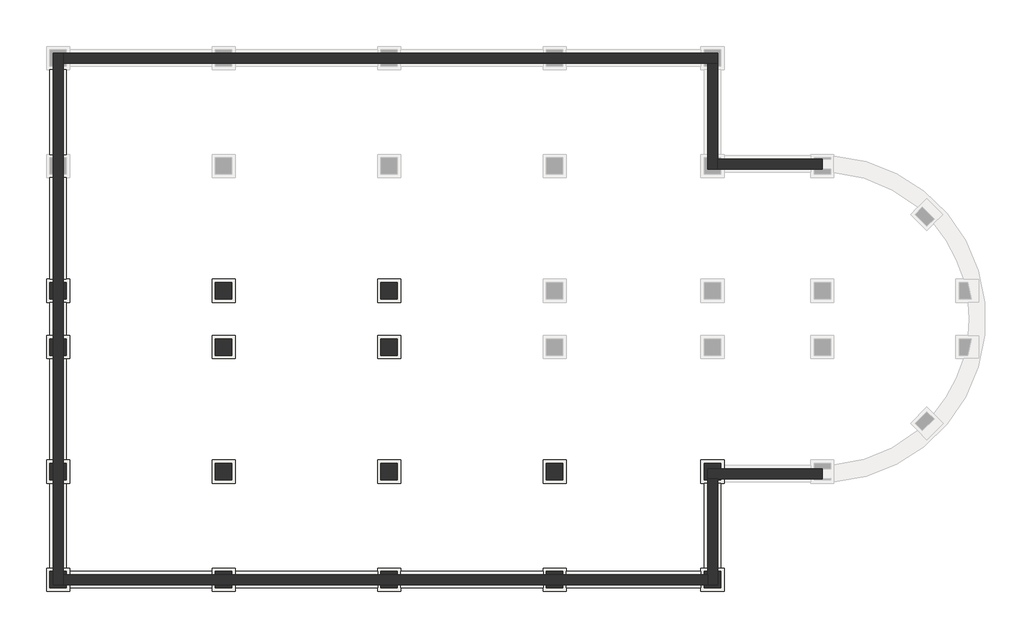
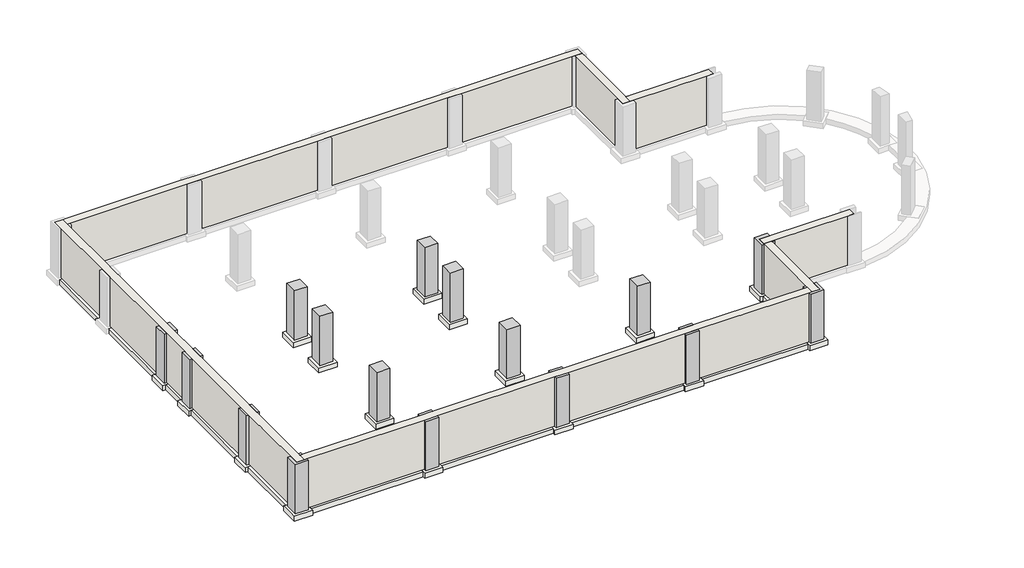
# One storey, part 1 of 2: 16 columns, 16 slabs, 7 walls, 3 footings.
"""IFC4 building model written with IfcOpenShell, lengths in millimetres."""

import ifcopenshell
import ifcopenshell.guid

model = None  # the IFC model being written
_history = None  # IfcOwnerHistory: only IFC2X3 demands one
_inside = {}  # id of a spatial element -> (the spatial element, [elements in it])
_under = {}  # id of a project, library or spatial element -> (it, [spatial elements below it])
_declared = {}  # id of a project -> (the project, [libraries it declares])
_typed = {}  # id of a type object -> (the type object, [elements of that type])
_made_of = {}  # id of a material, layer set ... -> (it, [elements and type objects made of it])


def new_model(schema):
    """Start an empty IFC model of exactly this schema.

    Asked for "IFC4X3", IfcOpenShell would pick the latest addendum, in which some entities
    have other attributes; the version numbers below select the first issue.
    IFC2X3 requires an IfcOwnerHistory on every rooted entity: one is made here for all.
    """
    global model, _history
    if schema == "IFC4X3":
        model = ifcopenshell.file(schema_version=(4, 3, 0, 0))
    else:
        model = ifcopenshell.file(schema=schema)
    _inside.clear()
    _under.clear()
    _declared.clear()
    _typed.clear()
    _made_of.clear()
    _history = None
    if model.schema == "IFC2X3":
        org = make("IfcOrganization", Name="unknown")
        user = make(
            "IfcPersonAndOrganization",
            ThePerson=make("IfcPerson", FamilyName="unknown"),
            TheOrganization=org,
        )
        app = make(
            "IfcApplication",
            ApplicationDeveloper=org,
            Version="unknown",
            ApplicationFullName="unknown",
            ApplicationIdentifier="unknown",
        )
        _history = make(
            "IfcOwnerHistory",
            OwningUser=user,
            OwningApplication=app,
            ChangeAction="ADDED",
            CreationDate=0,
        )
    return model


def make(cls, **values):
    """One entity of the class cls with the attributes given. An attribute that is None is left unset."""
    return model.create_entity(
        cls, **{name: value for name, value in values.items() if value is not None}
    )


def rooted(cls, **values):
    """An entity with a GlobalId (a new one), such as an element, a storey or a relation."""
    return make(cls, GlobalId=ifcopenshell.guid.new(), OwnerHistory=_history, **values)


def si_unit(unit_type, name, prefix=None):
    """IfcSIUnit, for example si_unit("LENGTHUNIT", "METRE", prefix="MILLI")."""
    return make("IfcSIUnit", UnitType=unit_type, Prefix=prefix, Name=name)


def assignment(units):
    """IfcUnitAssignment: the units of a project."""
    return None if units is None else make("IfcUnitAssignment", Units=units)


def point(xyz):
    """IfcCartesianPoint."""
    return None if xyz is None else make("IfcCartesianPoint", Coordinates=xyz)


def direction(xyz):
    """IfcDirection."""
    return None if xyz is None else make("IfcDirection", DirectionRatios=xyz)


def frame(location, z_axis=None, x_axis=None):
    """IfcAxis2Placement3D, a coordinate frame: its origin and axes. An axis left out is left unset."""
    return make(
        "IfcAxis2Placement3D",
        Location=point(location),
        Axis=direction(z_axis),
        RefDirection=direction(x_axis),
    )


def origin():
    """The frame at (0, 0, 0) with its axes left unset."""
    return frame((0.0, 0.0, 0.0))


def place(relative_to, where):
    """IfcLocalPlacement: puts the frame where relative to a parent placement (None: the world)."""
    return make(
        "IfcLocalPlacement", PlacementRelTo=relative_to, RelativePlacement=where
    )


def context(
    kind, dimensions, precision=None, world=None, true_north=None, identifier=None
):
    """IfcGeometricRepresentationContext, for example the 3D "Model" context."""
    return make(
        "IfcGeometricRepresentationContext",
        ContextIdentifier=identifier,
        ContextType=kind,
        CoordinateSpaceDimension=dimensions,
        Precision=precision,
        WorldCoordinateSystem=world,
        TrueNorth=true_north,
    )


def project(units=None, contexts=None):
    """IfcProject with its units and contexts."""
    return rooted(
        "IfcProject",
        Name="project",
        RepresentationContexts=contexts,
        UnitsInContext=assignment(units),
    )


def spatial(cls, under=None, at=None, **own):
    """A site, building, storey or space (cls), placed at a placement, below another one or the project."""
    s = rooted(cls, ObjectPlacement=at, **own)
    if under is not None:
        _under.setdefault(under.id(), (under, []))[1].append(s)
    return s


def polyline(points):
    """IfcPolyline through the points."""
    return make("IfcPolyline", Points=[point(p) for p in points])


def outline(outer, holes=None, kind="AREA"):
    """IfcArbitraryClosedProfileDef: a profile drawn as a closed curve; with holes, ...WithVoids."""
    if holes is None:
        return make("IfcArbitraryClosedProfileDef", ProfileType=kind, OuterCurve=outer)
    return make(
        "IfcArbitraryProfileDefWithVoids",
        ProfileType=kind,
        OuterCurve=outer,
        InnerCurves=holes,
    )


def extrude(swept, where, along, depth):
    """IfcExtrudedAreaSolid: the profile swept, set in the frame where, extruded along a direction by depth."""
    return make(
        "IfcExtrudedAreaSolid",
        SweptArea=swept,
        Position=where,
        ExtrudedDirection=direction(along),
        Depth=depth,
    )


def faces_of(points, faces, orient=None, outer=None):
    """IfcFace entities. A face is a list of loops; a loop is a list of indices into points, from 0.

    orient and outer hold one flag for each loop. By default every Orientation is true, the
    first loop of a face is its IfcFaceOuterBound and the others are IfcFaceBound.
    """
    made = []
    for i, loops in enumerate(faces):
        bounds = []
        for j, loop in enumerate(loops):
            is_outer = j == 0 if outer is None else outer[i][j]
            bounds.append(
                make(
                    "IfcFaceOuterBound" if is_outer else "IfcFaceBound",
                    Bound=make("IfcPolyLoop", Polygon=[points[k] for k in loop]),
                    Orientation=True if orient is None else orient[i][j],
                )
            )
        made.append(make("IfcFace", Bounds=bounds))
    return made


def faceted_brep(points, faces, orient=None, outer=None, voids=None):
    """IfcFacetedBrep: a solid bounded by flat faces; with voids (closed shells), ...WithVoids."""
    shared = [point(p) for p in points]
    hull = make("IfcClosedShell", CfsFaces=faces_of(shared, faces, orient, outer))
    if voids is None:
        return make("IfcFacetedBrep", Outer=hull)
    return make(
        "IfcFacetedBrepWithVoids",
        Outer=hull,
        Voids=[
            make(cls, CfsFaces=faces_of(shared, fs, o, b)) for cls, fs, o, b in voids
        ],
    )


def shape(context_of_items, identifier, shape_type, items):
    """IfcShapeRepresentation: the items that make up one representation, for example the "Body"."""
    return make(
        "IfcShapeRepresentation",
        ContextOfItems=context_of_items,
        RepresentationIdentifier=identifier,
        RepresentationType=shape_type,
        Items=items,
    )


def source(mapping_origin, context_of_items, identifier, shape_type, items):
    """IfcRepresentationMap: a shape defined once, which mapped items show again and again."""
    return make(
        "IfcRepresentationMap",
        MappingOrigin=mapping_origin,
        MappedRepresentation=shape(context_of_items, identifier, shape_type, items),
    )


def transform(
    local_origin,
    x_axis=None,
    y_axis=None,
    z_axis=None,
    scale=None,
    scale2=None,
    scale3=None,
    uniform=True,
):
    """IfcCartesianTransformationOperator3D, or its non-uniform kind. x_axis, y_axis, z_axis: its Axis1, 2, 3."""
    if uniform:
        return make(
            "IfcCartesianTransformationOperator3D",
            Axis1=direction(x_axis),
            Axis2=direction(y_axis),
            LocalOrigin=point(local_origin),
            Scale=scale,
            Axis3=direction(z_axis),
        )
    return make(
        "IfcCartesianTransformationOperator3DnonUniform",
        Axis1=direction(x_axis),
        Axis2=direction(y_axis),
        LocalOrigin=point(local_origin),
        Scale=scale,
        Axis3=direction(z_axis),
        Scale2=scale2,
        Scale3=scale3,
    )


def mapped(mapping_source, mapping_target):
    """IfcMappedItem: shows the shape of a source again, moved by a transform."""
    return make(
        "IfcMappedItem", MappingSource=mapping_source, MappingTarget=mapping_target
    )


def made_of(thing, what):
    """Note that an element or type object is made of a material, layer set ...; save() writes the relation."""
    if what is not None:
        _made_of.setdefault(what.id(), (what, []))[1].append(thing)
    return thing


def element(
    cls,
    number,
    at=None,
    inside=None,
    cuts=None,
    type_object=None,
    material=None,
    context=None,
    identifier="Body",
    shape_type=None,
    held_by="IfcProductDefinitionShape",
    body=None,
    shapes=None,
    **own,
):
    """One element of the class cls, such as IfcWall. Its Tag is "e" and its number.

    at: its placement. inside: the storey or other place that contains it. cuts: it is an
    opening in that element (IfcRelVoidsElement). A single representation is given by context,
    identifier, shape_type and body (its items); several are given by shapes. held_by: the class
    of the entity that holds the representations. save() writes the other relations.
    """
    e = rooted(cls, Tag="e%d" % number, ObjectPlacement=at, **own)
    if body is not None:
        shapes = [shape(context, identifier, shape_type, body)]
    if shapes is not None:
        e.Representation = make(held_by, Representations=shapes)
    if inside is not None:
        _inside.setdefault(inside.id(), (inside, []))[1].append(e)
    if cuts is not None:
        rooted(
            "IfcRelVoidsElement", RelatingBuildingElement=cuts, RelatedOpeningElement=e
        )
    if type_object is not None:
        _typed.setdefault(type_object.id(), (type_object, []))[1].append(e)
    return made_of(e, material)


def aggregate(whole, parts):
    """IfcRelAggregates: a whole, such as a stair, and the parts it consists of."""
    return rooted("IfcRelAggregates", RelatingObject=whole, RelatedObjects=parts)


def save(model, path):
    """Write the relations noted so far, then the file.

    IfcRelAggregates (storeys below a building ...), IfcRelContainedInSpatialStructure (elements
    in a storey), IfcRelDefinesByType, IfcRelAssociatesMaterial and IfcRelDeclares: one each for
    every whole, place, type object, material and project.
    """
    for whole, parts in _under.values():
        aggregate(whole, parts)
    for where, things in _inside.values():
        rooted(
            "IfcRelContainedInSpatialStructure",
            RelatedElements=things,
            RelatingStructure=where,
        )
    for kind, things in _typed.values():
        rooted("IfcRelDefinesByType", RelatedObjects=things, RelatingType=kind)
    for what, things in _made_of.values():
        rooted("IfcRelAssociatesMaterial", RelatedObjects=things, RelatingMaterial=what)
    for by, libraries in _declared.values():
        rooted("IfcRelDeclares", RelatingContext=by, RelatedDefinitions=libraries)
    model.write(path)


def column_99cc3399(model_context):
    return source(origin(), model_context, "Body", "SweptSolid", [
        extrude(outline(polyline([(381.0, 381.0), (381.0, -381.0), (-381.0, -381.0), (-381.0, 381.0), (381.0, 381.0)])), frame((0.0, 0.0, -3048.0), z_axis=(0.0, 0.0, 1.0), x_axis=(1.0, 0.0, 0.0)), (0.0, 0.0, 1.0), 3048.0),
    ])


def slab_3b9d1f00(model_context):
    return source(origin(), model_context, "Body", "SweptSolid", [
        extrude(outline(polyline([(533.4, 533.4), (533.4, -533.4), (-533.4, -533.4), (-533.4, 533.4), (533.4, 533.4)])), frame((0.0, 0.0, -304.8), z_axis=(0.0, 0.0, 1.0), x_axis=(1.0, 0.0, 0.0)), (0.0, 0.0, 1.0), 304.8),
    ])


model = new_model("IFC4")

# Units and contexts
model_context = context("Model", 3, world=origin())
ifc_project = project(units=[si_unit("LENGTHUNIT", "METRE", prefix="MILLI")], contexts=[model_context])

# Site, building, storey
site = spatial("IfcSite", under=ifc_project)
building = spatial("IfcBuilding", under=site)
storey = spatial("IfcBuildingStorey", under=building, Name="T.O.FOOTING", Elevation=-3048.0)

# Columns
placement = place(None, origin())
element("IfcColumn", 1, ObjectType="Concrete-Rectangular-Column : 2'-6\" x 2'-6\"", at=placement, inside=storey, context=model_context, shape_type="SweptSolid", body=[
    extrude(outline(polyline([(-17623.6535279, -1589.8226681), (-17623.6535279, -827.8226681), (-17471.2535279, -827.8226681), (-17471.2535279, -1589.8226681), (-17623.6535279, -1589.8226681)])), frame((0.0, 0.0, -3048.0), z_axis=(0.0, 0.0, 1.0), x_axis=(1.0, 0.0, 0.0)), (0.0, 0.0, 1.0), 3048.0),
    extrude(outline(polyline([(-16861.6535279, -827.8226681), (-16861.6535279, -1589.8226681), (-17014.0535279, -1589.8226681), (-17014.0535279, -827.8226681), (-16861.6535279, -827.8226681)])), frame((0.0, 0.0, -3048.0), z_axis=(0.0, 0.0, 1.0), x_axis=(1.0, 0.0, 0.0)), (0.0, 0.0, 1.0), 3048.0),
])
element("IfcColumn", 2, ObjectType="Concrete-Rectangular-Column : 2'-6\" x 2'-6\"", at=placement, inside=storey, context=model_context, shape_type="SweptSolid", body=[
    extrude(outline(polyline([(-17623.6535279, -4183.7976681), (-17623.6535279, -3421.7976681), (-17471.2535279, -3421.7976681), (-17471.2535279, -4183.7976681), (-17623.6535279, -4183.7976681)])), frame((0.0, 0.0, -3048.0), z_axis=(0.0, 0.0, 1.0), x_axis=(1.0, 0.0, 0.0)), (0.0, 0.0, 1.0), 3048.0),
    extrude(outline(polyline([(-16861.6535279, -3421.7976681), (-16861.6535279, -4183.7976681), (-17014.0535279, -4183.7976681), (-17014.0535279, -3421.7976681), (-16861.6535279, -3421.7976681)])), frame((0.0, 0.0, -3048.0), z_axis=(0.0, 0.0, 1.0), x_axis=(1.0, 0.0, 0.0)), (0.0, 0.0, 1.0), 3048.0),
])
element("IfcColumn", 3, ObjectType="Concrete-Rectangular-Column : 2'-6\" x 2'-6\"", at=placement, inside=storey, context=model_context, shape_type="SweptSolid", body=[
    extrude(outline(polyline([(-17623.6535279, -9927.3726681), (-17623.6535279, -9165.3726681), (-17471.2535279, -9165.3726681), (-17471.2535279, -9927.3726681), (-17623.6535279, -9927.3726681)])), frame((0.0, 0.0, -3048.0), z_axis=(0.0, 0.0, 1.0), x_axis=(1.0, 0.0, 0.0)), (0.0, 0.0, 1.0), 3048.0),
    extrude(outline(polyline([(-16861.6535279, -9165.3726681), (-16861.6535279, -9927.3726681), (-17014.0535279, -9927.3726681), (-17014.0535279, -9165.3726681), (-16861.6535279, -9165.3726681)])), frame((0.0, 0.0, -3048.0), z_axis=(0.0, 0.0, 1.0), x_axis=(1.0, 0.0, 0.0)), (0.0, 0.0, 1.0), 3048.0),
])
element("IfcColumn", 4, ObjectType="Concrete-Rectangular-Column : 2'-6\" x 2'-6\"", at=placement, inside=storey, context=model_context, shape_type="Brep", body=[
    faceted_brep([(-17014.0535279, -14140.5976681, -3048.0), (-16861.6535279, -14140.5976681, -3048.0), (-16861.6535279, -14292.9976681, -3048.0), (-17014.0535279, -14292.9976681, -3048.0), (-16861.6535279, -14140.5976681, 0.0), (-17014.0535279, -14140.5976681, 0.0), (-17014.0535279, -14292.9976681, 0.0), (-16861.6535279, -14292.9976681, 0.0)], [[[0, 1, 2, 3]], [[4, 5, 6, 7]], [[5, 0, 3, 6]], [[4, 1, 0, 5]], [[3, 2, 7, 6]], [[1, 4, 7, 2]]]),
    faceted_brep([(-16861.6535279, -14902.5976681, 0.0), (-16861.6535279, -14902.5976681, -3048.0), (-16861.6535279, -14750.1976681, -3048.0), (-16861.6535279, -14750.1976681, 0.0), (-17623.6535279, -14902.5976681, -3048.0), (-17623.6535279, -14902.5976681, 0.0), (-17623.6535279, -14140.5976681, -3048.0), (-17623.6535279, -14140.5976681, 0.0), (-17471.2535279, -14140.5976681, 0.0), (-17471.2535279, -14140.5976681, -3048.0), (-17471.2535279, -14750.1976681, 0.0), (-17471.2535279, -14750.1976681, -3048.0), (-17014.0535279, -14750.1976681, 0.0), (-17014.0535279, -14750.1976681, -3048.0)], [[[0, 1, 2, 3]], [[4, 1, 0, 5]], [[6, 4, 5, 7]], [[6, 7, 8, 9]], [[10, 11, 9, 8]], [[11, 10, 12, 3, 2, 13]], [[1, 4, 6, 9, 11, 13, 2]], [[5, 0, 3, 12, 10, 8, 7]]]),
])
element("IfcColumn", 5, ObjectType="Concrete-Rectangular-Column : 2'-6\" x 2'-6\"", at=placement, inside=storey, context=model_context, shape_type="SweptSolid", body=[
    extrude(outline(polyline([(-10003.6535279, -14140.5976681), (-9241.6535279, -14140.5976681), (-9241.6535279, -14292.9976681), (-10003.6535279, -14292.9976681), (-10003.6535279, -14140.5976681)])), frame((0.0, 0.0, -3048.0), z_axis=(0.0, 0.0, 1.0), x_axis=(1.0, 0.0, 0.0)), (0.0, 0.0, 1.0), 3048.0),
    extrude(outline(polyline([(-9241.6535279, -14902.5976681), (-10003.6535279, -14902.5976681), (-10003.6535279, -14750.1976681), (-9241.6535279, -14750.1976681), (-9241.6535279, -14902.5976681)])), frame((0.0, 0.0, -3048.0), z_axis=(0.0, 0.0, 1.0), x_axis=(1.0, 0.0, 0.0)), (0.0, 0.0, 1.0), 3048.0),
])
element("IfcColumn", 6, ObjectType="Concrete-Rectangular-Column : 2'-6\" x 2'-6\"", at=placement, inside=storey, context=model_context, shape_type="SweptSolid", body=[
    extrude(outline(polyline([(-2383.6535279, -14140.5976681), (-1621.6535279, -14140.5976681), (-1621.6535279, -14292.9976681), (-2383.6535279, -14292.9976681), (-2383.6535279, -14140.5976681)])), frame((0.0, 0.0, -3048.0), z_axis=(0.0, 0.0, 1.0), x_axis=(1.0, 0.0, 0.0)), (0.0, 0.0, 1.0), 3048.0),
    extrude(outline(polyline([(-1621.6535279, -14902.5976681), (-2383.6535279, -14902.5976681), (-2383.6535279, -14750.1976681), (-1621.6535279, -14750.1976681), (-1621.6535279, -14902.5976681)])), frame((0.0, 0.0, -3048.0), z_axis=(0.0, 0.0, 1.0), x_axis=(1.0, 0.0, 0.0)), (0.0, 0.0, 1.0), 3048.0),
])
element("IfcColumn", 7, ObjectType="Concrete-Rectangular-Column : 2'-6\" x 2'-6\"", at=placement, inside=storey, context=model_context, shape_type="SweptSolid", body=[
    extrude(outline(polyline([(5236.3464721, -14140.5976681), (5998.3464721, -14140.5976681), (5998.3464721, -14292.9976681), (5236.3464721, -14292.9976681), (5236.3464721, -14140.5976681)])), frame((0.0, 0.0, -3048.0), z_axis=(0.0, 0.0, 1.0), x_axis=(1.0, 0.0, 0.0)), (0.0, 0.0, 1.0), 3048.0),
    extrude(outline(polyline([(5998.3464721, -14902.5976681), (5236.3464721, -14902.5976681), (5236.3464721, -14750.1976681), (5998.3464721, -14750.1976681), (5998.3464721, -14902.5976681)])), frame((0.0, 0.0, -3048.0), z_axis=(0.0, 0.0, 1.0), x_axis=(1.0, 0.0, 0.0)), (0.0, 0.0, 1.0), 3048.0),
])
element("IfcColumn", 8, ObjectType="Concrete-Rectangular-Column : 2'-6\" x 2'-6\"", at=placement, inside=storey, context=model_context, shape_type="Brep", body=[
    faceted_brep([(12503.9214721, -9927.3726681, -3048.0), (12503.9214721, -9165.3726681, -3048.0), (13265.9214721, -9165.3726681, -3048.0), (13265.9214721, -9416.1976681, -3048.0), (12656.3214721, -9416.1976681, -3048.0), (12656.3214721, -9873.3976681, -3048.0), (12656.3214721, -9927.3726681, -3048.0), (12503.9214721, -9927.3726681, 0.0), (12656.3214721, -9927.3726681, 0.0), (12503.9214721, -9165.3726681, 0.0), (13265.9214721, -9165.3726681, 0.0), (12656.3214721, -9416.1976681, 0.0), (13265.9214721, -9416.1976681, 0.0), (12656.3214721, -9873.3976681, 0.0)], [[[0, 1, 2, 3, 4, 5, 6]], [[7, 0, 6, 8]], [[1, 0, 7, 9]], [[2, 1, 9, 10]], [[11, 4, 3, 12]], [[4, 11, 13, 8, 6, 5]], [[2, 10, 12, 3]], [[9, 7, 8, 13, 11, 12, 10]]]),
    faceted_brep([(13265.9214721, -9927.3726681, 0.0), (13265.9214721, -9927.3726681, -3048.0), (13265.9214721, -9873.3976681, -3048.0), (13265.9214721, -9873.3976681, 0.0), (13113.5214721, -9873.3976681, 0.0), (13113.5214721, -9927.3726681, 0.0), (13113.5214721, -9873.3976681, -3048.0), (13113.5214721, -9927.3726681, -3048.0)], [[[0, 1, 2, 3]], [[0, 3, 4, 5]], [[3, 2, 6, 4]], [[6, 7, 5, 4]], [[2, 1, 7, 6]], [[1, 0, 5, 7]]]),
])
element("IfcColumn", 9, ObjectType="Concrete-Rectangular-Column : 2'-6\" x 2'-6\"", at=placement, inside=storey, context=model_context, shape_type="Brep", body=[
    faceted_brep([(12503.9214721, -14140.5976681, -3048.0), (12656.3214721, -14140.5976681, -3048.0), (12656.3214721, -14292.9976681, -3048.0), (12503.9214721, -14292.9976681, -3048.0), (12503.9214721, -14140.5976681, 0.0), (12503.9214721, -14292.9976681, 0.0), (12656.3214721, -14140.5976681, 0.0), (12656.3214721, -14292.9976681, 0.0)], [[[0, 1, 2, 3]], [[4, 0, 3, 5]], [[0, 4, 6, 1]], [[1, 6, 7, 2]], [[3, 2, 7, 5]], [[6, 4, 5, 7]]]),
    faceted_brep([(13265.9214721, -14902.5976681, -3048.0), (13265.9214721, -14140.5976681, -3048.0), (13265.9214721, -14140.5976681, 0.0), (13265.9214721, -14902.5976681, 0.0), (12503.9214721, -14902.5976681, -3048.0), (12503.9214721, -14902.5976681, 0.0), (13113.5214721, -14140.5976681, 0.0), (13113.5214721, -14750.1976681, 0.0), (12656.3214721, -14750.1976681, 0.0), (12503.9214721, -14750.1976681, 0.0), (13113.5214721, -14750.1976681, -3048.0), (13113.5214721, -14140.5976681, -3048.0), (12656.3214721, -14750.1976681, -3048.0), (12503.9214721, -14750.1976681, -3048.0)], [[[0, 1, 2, 3]], [[4, 0, 3, 5]], [[3, 2, 6, 7, 8, 9, 5]], [[10, 7, 6, 11]], [[7, 10, 12, 13, 9, 8]], [[2, 1, 11, 6]], [[1, 0, 4, 13, 12, 10, 11]], [[4, 5, 9, 13]]]),
])
column_shape = column_99cc3399(model_context)
element("IfcColumn", 10, ObjectType="Concrete-Rectangular-Column : 2'-6\" x 2'-6\"", at=placement, inside=storey, context=model_context, shape_type="MappedRepresentation", body=[
    mapped(column_shape, transform((-9622.6535279, -1208.8226681, 0.0), x_axis=(1.0, 0.0, 0.0), y_axis=(0.0, 1.0, 0.0), z_axis=(0.0, 0.0, 1.0))),
])
element("IfcColumn", 11, ObjectType="Concrete-Rectangular-Column : 2'-6\" x 2'-6\"", at=placement, inside=storey, context=model_context, shape_type="MappedRepresentation", body=[
    mapped(column_shape, transform((-9622.6535279, -3802.7976681, 0.0), x_axis=(1.0, 0.0, 0.0), y_axis=(0.0, 1.0, 0.0), z_axis=(0.0, 0.0, 1.0))),
])
element("IfcColumn", 12, ObjectType="Concrete-Rectangular-Column : 2'-6\" x 2'-6\"", at=placement, inside=storey, context=model_context, shape_type="MappedRepresentation", body=[
    mapped(column_shape, transform((-9622.6535279, -9546.3726681, 0.0), x_axis=(1.0, 0.0, 0.0), y_axis=(0.0, 1.0, 0.0), z_axis=(0.0, 0.0, 1.0))),
])
element("IfcColumn", 13, ObjectType="Concrete-Rectangular-Column : 2'-6\" x 2'-6\"", at=placement, inside=storey, context=model_context, shape_type="MappedRepresentation", body=[
    mapped(column_shape, transform((-2002.6535279, -1208.8226681, 0.0), x_axis=(1.0, 0.0, 0.0), y_axis=(0.0, 1.0, 0.0), z_axis=(0.0, 0.0, 1.0))),
])
element("IfcColumn", 14, ObjectType="Concrete-Rectangular-Column : 2'-6\" x 2'-6\"", at=placement, inside=storey, context=model_context, shape_type="MappedRepresentation", body=[
    mapped(column_shape, transform((-2002.6535279, -3802.7976681, 0.0), x_axis=(1.0, 0.0, 0.0), y_axis=(0.0, 1.0, 0.0), z_axis=(0.0, 0.0, 1.0))),
])
element("IfcColumn", 15, ObjectType="Concrete-Rectangular-Column : 2'-6\" x 2'-6\"", at=placement, inside=storey, context=model_context, shape_type="MappedRepresentation", body=[
    mapped(column_shape, transform((-2002.6535279, -9546.3726681, 0.0), x_axis=(1.0, 0.0, 0.0), y_axis=(0.0, 1.0, 0.0), z_axis=(0.0, 0.0, 1.0))),
])
element("IfcColumn", 16, ObjectType="Concrete-Rectangular-Column : 2'-6\" x 2'-6\"", at=placement, inside=storey, context=model_context, shape_type="MappedRepresentation", body=[
    mapped(column_shape, transform((5617.3464721, -9546.3726681, 0.0), x_axis=(1.0, 0.0, 0.0), y_axis=(0.0, 1.0, 0.0), z_axis=(0.0, 0.0, 1.0))),
])

# Footings
element("IfcFooting", 17, ObjectType="Bearing Footing -2'-6\" x 12\"", at=placement, inside=storey, context=model_context, shape_type="SweptSolid", body=[
    extrude(outline(polyline([(-17623.6535279, 8976.5773319), (-16861.6535279, 8976.5773319), (-16861.6535279, 5068.1523319), (-17623.6535279, 5068.1523319), (-17623.6535279, 8976.5773319)])), frame((0.0, 0.0, -3352.8), z_axis=(0.0, 0.0, 1.0), x_axis=(1.0, 0.0, 0.0)), (0.0, 0.0, 1.0), 304.8),
    extrude(outline(polyline([(-17623.6535279, 4001.3523319), (-16861.6535279, 4001.3523319), (-16861.6535279, -675.4226681), (-17623.6535279, -675.4226681), (-17623.6535279, 4001.3523319)])), frame((0.0, 0.0, -3352.8), z_axis=(0.0, 0.0, 1.0), x_axis=(1.0, 0.0, 0.0)), (0.0, 0.0, 1.0), 304.8),
    extrude(outline(polyline([(-17623.6535279, -1742.2226681), (-16861.6535279, -1742.2226681), (-16861.6535279, -3269.3976681), (-17623.6535279, -3269.3976681), (-17623.6535279, -1742.2226681)])), frame((0.0, 0.0, -3352.8), z_axis=(0.0, 0.0, 1.0), x_axis=(1.0, 0.0, 0.0)), (0.0, 0.0, 1.0), 304.8),
    extrude(outline(polyline([(-17623.6535279, -4336.1976681), (-16861.6535279, -4336.1976681), (-16861.6535279, -9012.9726681), (-17623.6535279, -9012.9726681), (-17623.6535279, -4336.1976681)])), frame((0.0, 0.0, -3352.8), z_axis=(0.0, 0.0, 1.0), x_axis=(1.0, 0.0, 0.0)), (0.0, 0.0, 1.0), 304.8),
    extrude(outline(polyline([(-17623.6535279, -10079.7726681), (-16861.6535279, -10079.7726681), (-16861.6535279, -13988.1976681), (-17623.6535279, -13988.1976681), (-17623.6535279, -10079.7726681)])), frame((0.0, 0.0, -3352.8), z_axis=(0.0, 0.0, 1.0), x_axis=(1.0, 0.0, 0.0)), (0.0, 0.0, 1.0), 304.8),
])
element("IfcFooting", 18, ObjectType="Bearing Footing -2'-6\" x 12\"", at=placement, inside=storey, context=model_context, shape_type="SweptSolid", body=[
    extrude(outline(polyline([(12503.9214721, -10079.7726681), (13265.9214721, -10079.7726681), (13265.9214721, -13988.1976681), (12503.9214721, -13988.1976681), (12503.9214721, -10079.7726681)])), frame((0.0, 0.0, -3352.8), z_axis=(0.0, 0.0, 1.0), x_axis=(1.0, 0.0, 0.0)), (0.0, 0.0, 1.0), 304.8),
])
element("IfcFooting", 19, ObjectType="Bearing Footing -2'-6\" x 12\"", at=placement, inside=storey, context=model_context, shape_type="SweptSolid", body=[
    extrude(outline(polyline([(-16709.2535279, -14902.5976681), (-16709.2535279, -14140.5976681), (-10156.0535279, -14140.5976681), (-10156.0535279, -14902.5976681), (-16709.2535279, -14902.5976681)])), frame((0.0, 0.0, -3352.8), z_axis=(0.0, 0.0, 1.0), x_axis=(1.0, 0.0, 0.0)), (0.0, 0.0, 1.0), 304.8),
    extrude(outline(polyline([(-9089.2535279, -14902.5976681), (-9089.2535279, -14140.5976681), (-2536.0535279, -14140.5976681), (-2536.0535279, -14902.5976681), (-9089.2535279, -14902.5976681)])), frame((0.0, 0.0, -3352.8), z_axis=(0.0, 0.0, 1.0), x_axis=(1.0, 0.0, 0.0)), (0.0, 0.0, 1.0), 304.8),
    extrude(outline(polyline([(-1469.2535279, -14902.5976681), (-1469.2535279, -14140.5976681), (5083.9464721, -14140.5976681), (5083.9464721, -14902.5976681), (-1469.2535279, -14902.5976681)])), frame((0.0, 0.0, -3352.8), z_axis=(0.0, 0.0, 1.0), x_axis=(1.0, 0.0, 0.0)), (0.0, 0.0, 1.0), 304.8),
    extrude(outline(polyline([(6150.7464721, -14902.5976681), (6150.7464721, -14140.5976681), (12351.5214721, -14140.5976681), (12351.5214721, -14902.5976681), (6150.7464721, -14902.5976681)])), frame((0.0, 0.0, -3352.8), z_axis=(0.0, 0.0, 1.0), x_axis=(1.0, 0.0, 0.0)), (0.0, 0.0, 1.0), 304.8),
])

# Slabs
element("IfcSlab", 20, ObjectType="Footing-Rectangular : 3'-6\" x 3'-6\" x 12\"", at=placement, inside=storey, context=model_context, shape_type="Brep", body=[
    faceted_brep([(-16709.2535279, -675.4226681, -3048.0), (-16861.6535279, -675.4226681, -3048.0), (-17623.6535279, -675.4226681, -3048.0), (-17776.0535279, -675.4226681, -3048.0), (-17776.0535279, -1742.2226681, -3048.0), (-17623.6535279, -1742.2226681, -3048.0), (-16861.6535279, -1742.2226681, -3048.0), (-16709.2535279, -1742.2226681, -3048.0), (-16709.2535279, -675.4226681, -3352.8), (-16709.2535279, -1742.2226681, -3352.8), (-16861.6535279, -1742.2226681, -3352.8), (-17623.6535279, -1742.2226681, -3352.8), (-17776.0535279, -1742.2226681, -3352.8), (-17776.0535279, -675.4226681, -3352.8), (-17623.6535279, -675.4226681, -3352.8), (-16861.6535279, -675.4226681, -3352.8)], [[[0, 1, 2, 3, 4, 5, 6, 7]], [[8, 9, 10, 11, 12, 13, 14, 15]], [[3, 2, 1, 0, 8, 15, 14, 13]], [[4, 3, 13, 12]], [[7, 6, 5, 4, 12, 11, 10, 9]], [[0, 7, 9, 8]]]),
])
element("IfcSlab", 21, ObjectType="Footing-Rectangular : 3'-6\" x 3'-6\" x 12\"", at=placement, inside=storey, context=model_context, shape_type="Brep", body=[
    faceted_brep([(-16709.2535279, -3269.3976681, -3048.0), (-16861.6535279, -3269.3976681, -3048.0), (-17623.6535279, -3269.3976681, -3048.0), (-17776.0535279, -3269.3976681, -3048.0), (-17776.0535279, -4336.1976681, -3048.0), (-17623.6535279, -4336.1976681, -3048.0), (-16861.6535279, -4336.1976681, -3048.0), (-16709.2535279, -4336.1976681, -3048.0), (-16709.2535279, -3269.3976681, -3352.8), (-16709.2535279, -4336.1976681, -3352.8), (-16861.6535279, -4336.1976681, -3352.8), (-17623.6535279, -4336.1976681, -3352.8), (-17776.0535279, -4336.1976681, -3352.8), (-17776.0535279, -3269.3976681, -3352.8), (-17623.6535279, -3269.3976681, -3352.8), (-16861.6535279, -3269.3976681, -3352.8)], [[[0, 1, 2, 3, 4, 5, 6, 7]], [[8, 9, 10, 11, 12, 13, 14, 15]], [[3, 2, 1, 0, 8, 15, 14, 13]], [[4, 3, 13, 12]], [[7, 6, 5, 4, 12, 11, 10, 9]], [[0, 7, 9, 8]]]),
])
element("IfcSlab", 22, ObjectType="Footing-Rectangular : 3'-6\" x 3'-6\" x 12\"", at=placement, inside=storey, context=model_context, shape_type="Brep", body=[
    faceted_brep([(-16709.2535279, -9012.9726681, -3048.0), (-16861.6535279, -9012.9726681, -3048.0), (-17623.6535279, -9012.9726681, -3048.0), (-17776.0535279, -9012.9726681, -3048.0), (-17776.0535279, -10079.7726681, -3048.0), (-17623.6535279, -10079.7726681, -3048.0), (-16861.6535279, -10079.7726681, -3048.0), (-16709.2535279, -10079.7726681, -3048.0), (-16709.2535279, -9012.9726681, -3352.8), (-16709.2535279, -10079.7726681, -3352.8), (-16861.6535279, -10079.7726681, -3352.8), (-17623.6535279, -10079.7726681, -3352.8), (-17776.0535279, -10079.7726681, -3352.8), (-17776.0535279, -9012.9726681, -3352.8), (-17623.6535279, -9012.9726681, -3352.8), (-16861.6535279, -9012.9726681, -3352.8)], [[[0, 1, 2, 3, 4, 5, 6, 7]], [[8, 9, 10, 11, 12, 13, 14, 15]], [[3, 2, 1, 0, 8, 15, 14, 13]], [[4, 3, 13, 12]], [[7, 6, 5, 4, 12, 11, 10, 9]], [[0, 7, 9, 8]]]),
])
element("IfcSlab", 23, ObjectType="Footing-Rectangular : 3'-6\" x 3'-6\" x 12\"", at=placement, inside=storey, context=model_context, shape_type="Brep", body=[
    faceted_brep([(-16709.2535279, -13988.1976681, -3048.0), (-16861.6535279, -13988.1976681, -3048.0), (-17623.6535279, -13988.1976681, -3048.0), (-17776.0535279, -13988.1976681, -3048.0), (-17776.0535279, -15054.9976681, -3048.0), (-16709.2535279, -15054.9976681, -3048.0), (-16709.2535279, -14902.5976681, -3048.0), (-16709.2535279, -14140.5976681, -3048.0), (-16709.2535279, -13988.1976681, -3352.8), (-16709.2535279, -14140.5976681, -3352.8), (-16709.2535279, -14902.5976681, -3352.8), (-16709.2535279, -15054.9976681, -3352.8), (-17776.0535279, -15054.9976681, -3352.8), (-17776.0535279, -13988.1976681, -3352.8), (-17623.6535279, -13988.1976681, -3352.8), (-16861.6535279, -13988.1976681, -3352.8)], [[[0, 1, 2, 3, 4, 5, 6, 7]], [[8, 9, 10, 11, 12, 13, 14, 15]], [[3, 2, 1, 0, 8, 15, 14, 13]], [[4, 3, 13, 12]], [[5, 4, 12, 11]], [[0, 7, 6, 5, 11, 10, 9, 8]]]),
])
element("IfcSlab", 24, ObjectType="Footing-Rectangular : 3'-6\" x 3'-6\" x 12\"", at=placement, inside=storey, context=model_context, shape_type="Brep", body=[
    faceted_brep([(-9089.2535279, -13988.1976681, -3048.0), (-10156.0535279, -13988.1976681, -3048.0), (-10156.0535279, -14140.5976681, -3048.0), (-10156.0535279, -14902.5976681, -3048.0), (-10156.0535279, -15054.9976681, -3048.0), (-9089.2535279, -15054.9976681, -3048.0), (-9089.2535279, -14902.5976681, -3048.0), (-9089.2535279, -14140.5976681, -3048.0), (-9089.2535279, -13988.1976681, -3352.8), (-9089.2535279, -14140.5976681, -3352.8), (-9089.2535279, -14902.5976681, -3352.8), (-9089.2535279, -15054.9976681, -3352.8), (-10156.0535279, -15054.9976681, -3352.8), (-10156.0535279, -14902.5976681, -3352.8), (-10156.0535279, -14140.5976681, -3352.8), (-10156.0535279, -13988.1976681, -3352.8)], [[[0, 1, 2, 3, 4, 5, 6, 7]], [[8, 9, 10, 11, 12, 13, 14, 15]], [[1, 0, 8, 15]], [[4, 3, 2, 1, 15, 14, 13, 12]], [[5, 4, 12, 11]], [[0, 7, 6, 5, 11, 10, 9, 8]]]),
])
element("IfcSlab", 25, ObjectType="Footing-Rectangular : 3'-6\" x 3'-6\" x 12\"", at=placement, inside=storey, context=model_context, shape_type="Brep", body=[
    faceted_brep([(-1469.2535279, -13988.1976681, -3048.0), (-2536.0535279, -13988.1976681, -3048.0), (-2536.0535279, -14140.5976681, -3048.0), (-2536.0535279, -14902.5976681, -3048.0), (-2536.0535279, -15054.9976681, -3048.0), (-1469.2535279, -15054.9976681, -3048.0), (-1469.2535279, -14902.5976681, -3048.0), (-1469.2535279, -14140.5976681, -3048.0), (-1469.2535279, -13988.1976681, -3352.8), (-1469.2535279, -14140.5976681, -3352.8), (-1469.2535279, -14902.5976681, -3352.8), (-1469.2535279, -15054.9976681, -3352.8), (-2536.0535279, -15054.9976681, -3352.8), (-2536.0535279, -14902.5976681, -3352.8), (-2536.0535279, -14140.5976681, -3352.8), (-2536.0535279, -13988.1976681, -3352.8)], [[[0, 1, 2, 3, 4, 5, 6, 7]], [[8, 9, 10, 11, 12, 13, 14, 15]], [[1, 0, 8, 15]], [[4, 3, 2, 1, 15, 14, 13, 12]], [[5, 4, 12, 11]], [[0, 7, 6, 5, 11, 10, 9, 8]]]),
])
element("IfcSlab", 26, ObjectType="Footing-Rectangular : 3'-6\" x 3'-6\" x 12\"", at=placement, inside=storey, context=model_context, shape_type="Brep", body=[
    faceted_brep([(6150.7464721, -13988.1976681, -3048.0), (5083.9464721, -13988.1976681, -3048.0), (5083.9464721, -14140.5976681, -3048.0), (5083.9464721, -14902.5976681, -3048.0), (5083.9464721, -15054.9976681, -3048.0), (6150.7464721, -15054.9976681, -3048.0), (6150.7464721, -14902.5976681, -3048.0), (6150.7464721, -14140.5976681, -3048.0), (6150.7464721, -13988.1976681, -3352.8), (6150.7464721, -14140.5976681, -3352.8), (6150.7464721, -14902.5976681, -3352.8), (6150.7464721, -15054.9976681, -3352.8), (5083.9464721, -15054.9976681, -3352.8), (5083.9464721, -14902.5976681, -3352.8), (5083.9464721, -14140.5976681, -3352.8), (5083.9464721, -13988.1976681, -3352.8)], [[[0, 1, 2, 3, 4, 5, 6, 7]], [[8, 9, 10, 11, 12, 13, 14, 15]], [[1, 0, 8, 15]], [[4, 3, 2, 1, 15, 14, 13, 12]], [[5, 4, 12, 11]], [[0, 7, 6, 5, 11, 10, 9, 8]]]),
])
element("IfcSlab", 27, ObjectType="Footing-Rectangular : 3'-6\" x 3'-6\" x 12\"", at=placement, inside=storey, context=model_context, shape_type="Brep", body=[
    faceted_brep([(13418.3214721, -9012.9726681, -3048.0), (12351.5214721, -9012.9726681, -3048.0), (12351.5214721, -10079.7726681, -3048.0), (12503.9214721, -10079.7726681, -3048.0), (13265.9214721, -10079.7726681, -3048.0), (13418.3214721, -10079.7726681, -3048.0), (13418.3214721, -10025.7976681, -3048.0), (13418.3214721, -9263.7976681, -3048.0), (13418.3214721, -9012.9726681, -3352.8), (13418.3214721, -9263.7976681, -3352.8), (13418.3214721, -10025.7976681, -3352.8), (13418.3214721, -10079.7726681, -3352.8), (13265.9214721, -10079.7726681, -3352.8), (12503.9214721, -10079.7726681, -3352.8), (12351.5214721, -10079.7726681, -3352.8), (12351.5214721, -9012.9726681, -3352.8)], [[[0, 1, 2, 3, 4, 5, 6, 7]], [[8, 9, 10, 11, 12, 13, 14, 15]], [[1, 0, 8, 15]], [[2, 1, 15, 14]], [[5, 4, 3, 2, 14, 13, 12, 11]], [[0, 7, 6, 5, 11, 10, 9, 8]]]),
])
element("IfcSlab", 28, ObjectType="Footing-Rectangular : 3'-6\" x 3'-6\" x 12\"", at=placement, inside=storey, context=model_context, shape_type="Brep", body=[
    faceted_brep([(13418.3214721, -13988.1976681, -3048.0), (13265.9214721, -13988.1976681, -3048.0), (12503.9214721, -13988.1976681, -3048.0), (12351.5214721, -13988.1976681, -3048.0), (12351.5214721, -14140.5976681, -3048.0), (12351.5214721, -14902.5976681, -3048.0), (12351.5214721, -15054.9976681, -3048.0), (13418.3214721, -15054.9976681, -3048.0), (13418.3214721, -13988.1976681, -3352.8), (13418.3214721, -15054.9976681, -3352.8), (12351.5214721, -15054.9976681, -3352.8), (12351.5214721, -14902.5976681, -3352.8), (12351.5214721, -14140.5976681, -3352.8), (12351.5214721, -13988.1976681, -3352.8), (12503.9214721, -13988.1976681, -3352.8), (13265.9214721, -13988.1976681, -3352.8)], [[[0, 1, 2, 3, 4, 5, 6, 7]], [[8, 9, 10, 11, 12, 13, 14, 15]], [[3, 2, 1, 0, 8, 15, 14, 13]], [[6, 5, 4, 3, 13, 12, 11, 10]], [[7, 6, 10, 9]], [[0, 7, 9, 8]]]),
])
slab_shape = slab_3b9d1f00(model_context)
element("IfcSlab", 29, ObjectType="Footing-Rectangular : 3'-6\" x 3'-6\" x 12\"", at=placement, inside=storey, context=model_context, shape_type="MappedRepresentation", body=[
    mapped(slab_shape, transform((-9622.6535279, -1208.8226681, -3048.0), x_axis=(1.0, 0.0, 0.0), y_axis=(0.0, 1.0, 0.0), z_axis=(0.0, 0.0, 1.0))),
])
element("IfcSlab", 30, ObjectType="Footing-Rectangular : 3'-6\" x 3'-6\" x 12\"", at=placement, inside=storey, context=model_context, shape_type="MappedRepresentation", body=[
    mapped(slab_shape, transform((-9622.6535279, -3802.7976681, -3048.0), x_axis=(1.0, 0.0, 0.0), y_axis=(0.0, 1.0, 0.0), z_axis=(0.0, 0.0, 1.0))),
])
element("IfcSlab", 31, ObjectType="Footing-Rectangular : 3'-6\" x 3'-6\" x 12\"", at=placement, inside=storey, context=model_context, shape_type="MappedRepresentation", body=[
    mapped(slab_shape, transform((-9622.6535279, -9546.3726681, -3048.0), x_axis=(1.0, 0.0, 0.0), y_axis=(0.0, 1.0, 0.0), z_axis=(0.0, 0.0, 1.0))),
])
element("IfcSlab", 32, ObjectType="Footing-Rectangular : 3'-6\" x 3'-6\" x 12\"", at=placement, inside=storey, context=model_context, shape_type="MappedRepresentation", body=[
    mapped(slab_shape, transform((-2002.6535279, -1208.8226681, -3048.0), x_axis=(1.0, 0.0, 0.0), y_axis=(0.0, 1.0, 0.0), z_axis=(0.0, 0.0, 1.0))),
])
element("IfcSlab", 33, ObjectType="Footing-Rectangular : 3'-6\" x 3'-6\" x 12\"", at=placement, inside=storey, context=model_context, shape_type="MappedRepresentation", body=[
    mapped(slab_shape, transform((-2002.6535279, -3802.7976681, -3048.0), x_axis=(1.0, 0.0, 0.0), y_axis=(0.0, 1.0, 0.0), z_axis=(0.0, 0.0, 1.0))),
])
element("IfcSlab", 34, ObjectType="Footing-Rectangular : 3'-6\" x 3'-6\" x 12\"", at=placement, inside=storey, context=model_context, shape_type="MappedRepresentation", body=[
    mapped(slab_shape, transform((-2002.6535279, -9546.3726681, -3048.0), x_axis=(1.0, 0.0, 0.0), y_axis=(0.0, 1.0, 0.0), z_axis=(0.0, 0.0, 1.0))),
])
element("IfcSlab", 35, ObjectType="Footing-Rectangular : 3'-6\" x 3'-6\" x 12\"", at=placement, inside=storey, context=model_context, shape_type="MappedRepresentation", body=[
    mapped(slab_shape, transform((5617.3464721, -9546.3726681, -3048.0), x_axis=(1.0, 0.0, 0.0), y_axis=(0.0, 1.0, 0.0), z_axis=(0.0, 0.0, 1.0))),
])

# Walls
element("IfcWall", 36, ObjectType="Foundation - 1'-6\" Concrete", at=placement, inside=storey, context=model_context, shape_type="Brep", body=[
    faceted_brep([(-17014.0535279, -14750.1976681, -3048.0), (-17014.0535279, -14292.9976681, -3048.0), (-17014.0535279, -14140.5976681, -3048.0), (-17014.0535279, -9927.3726681, -3048.0), (-17014.0535279, -9165.3726681, -3048.0), (-17014.0535279, -4183.7976681, -3048.0), (-17014.0535279, -3421.7976681, -3048.0), (-17014.0535279, -1589.8226681, -3048.0), (-17014.0535279, -827.8226681, -3048.0), (-17014.0535279, 4153.7523319, -3048.0), (-17014.0535279, 4915.7523319, -3048.0), (-17014.0535279, 9128.9773319, -3048.0), (-17014.0535279, 9281.3773319, -3048.0), (-17014.0535279, 9738.5773319, -3048.0), (-17014.0535279, 9738.5773319, 0.0), (-17014.0535279, 9281.3773319, 0.0), (-17014.0535279, 9128.9773319, 0.0), (-17014.0535279, 4915.7523319, 0.0), (-17014.0535279, 4153.7523319, 0.0), (-17014.0535279, -827.8226681, 0.0), (-17014.0535279, -1589.8226681, 0.0), (-17014.0535279, -3421.7976681, 0.0), (-17014.0535279, -4183.7976681, 0.0), (-17014.0535279, -9165.3726681, 0.0), (-17014.0535279, -9927.3726681, 0.0), (-17014.0535279, -14140.5976681, 0.0), (-17014.0535279, -14292.9976681, 0.0), (-17014.0535279, -14750.1976681, 0.0), (-17471.2535279, -14750.1976681, -3048.0), (-17471.2535279, -14750.1976681, 0.0), (-17471.2535279, -14140.5976681, 0.0), (-17471.2535279, -9927.3726681, 0.0), (-17471.2535279, -9165.3726681, 0.0), (-17471.2535279, -4183.7976681, 0.0), (-17471.2535279, -3421.7976681, 0.0), (-17471.2535279, -1589.8226681, 0.0), (-17471.2535279, -827.8226681, 0.0), (-17471.2535279, 4153.7523319, 0.0), (-17471.2535279, 4915.7523319, 0.0), (-17471.2535279, 9128.9773319, 0.0), (-17471.2535279, 9738.5773319, 0.0), (-17471.2535279, 9738.5773319, -3048.0), (-17471.2535279, 9128.9773319, -3048.0), (-17471.2535279, 4915.7523319, -3048.0), (-17471.2535279, 4153.7523319, -3048.0), (-17471.2535279, -827.8226681, -3048.0), (-17471.2535279, -1589.8226681, -3048.0), (-17471.2535279, -3421.7976681, -3048.0), (-17471.2535279, -4183.7976681, -3048.0), (-17471.2535279, -9165.3726681, -3048.0), (-17471.2535279, -9927.3726681, -3048.0), (-17471.2535279, -14140.5976681, -3048.0)], [[[0, 1, 2, 3, 4, 5, 6, 7, 8, 9, 10, 11, 12, 13, 14, 15, 16, 17, 18, 19, 20, 21, 22, 23, 24, 25, 26, 27]], [[28, 29, 30, 31, 32, 33, 34, 35, 36, 37, 38, 39, 40, 41, 42, 43, 44, 45, 46, 47, 48, 49, 50, 51]], [[13, 12, 11, 10, 9, 8, 7, 6, 5, 4, 3, 2, 1, 0, 28, 51, 50, 49, 48, 47, 46, 45, 44, 43, 42, 41]], [[27, 26, 25, 24, 23, 22, 21, 20, 19, 18, 17, 16, 15, 14, 40, 39, 38, 37, 36, 35, 34, 33, 32, 31, 30, 29]], [[14, 13, 41, 40]], [[0, 27, 29, 28]]]),
])
element("IfcWall", 37, ObjectType="Foundation - 1'-6\" Concrete", at=placement, inside=storey, context=model_context, shape_type="Brep", body=[
    faceted_brep([(-17014.0535279, 9281.3773319, -3048.0), (-16861.6535279, 9281.3773319, -3048.0), (-10003.6535279, 9281.3773319, -3048.0), (-9241.6535279, 9281.3773319, -3048.0), (-2383.6535279, 9281.3773319, -3048.0), (-1621.6535279, 9281.3773319, -3048.0), (5236.3464721, 9281.3773319, -3048.0), (5998.3464721, 9281.3773319, -3048.0), (12503.9214721, 9281.3773319, -3048.0), (12656.3214721, 9281.3773319, -3048.0), (13113.5214721, 9281.3773319, -3048.0), (13113.5214721, 9281.3773319, 0.0), (12656.3214721, 9281.3773319, 0.0), (12503.9214721, 9281.3773319, 0.0), (5998.3464721, 9281.3773319, 0.0), (5236.3464721, 9281.3773319, 0.0), (-1621.6535279, 9281.3773319, 0.0), (-2383.6535279, 9281.3773319, 0.0), (-9241.6535279, 9281.3773319, 0.0), (-10003.6535279, 9281.3773319, 0.0), (-16861.6535279, 9281.3773319, 0.0), (-17014.0535279, 9281.3773319, 0.0), (-17014.0535279, 9738.5773319, -3048.0), (-17014.0535279, 9738.5773319, 0.0), (-16861.6535279, 9738.5773319, 0.0), (-10003.6535279, 9738.5773319, 0.0), (-9241.6535279, 9738.5773319, 0.0), (-2383.6535279, 9738.5773319, 0.0), (-1621.6535279, 9738.5773319, 0.0), (5236.3464721, 9738.5773319, 0.0), (5998.3464721, 9738.5773319, 0.0), (12503.9214721, 9738.5773319, 0.0), (13113.5214721, 9738.5773319, 0.0), (13113.5214721, 9738.5773319, -3048.0), (12503.9214721, 9738.5773319, -3048.0), (5998.3464721, 9738.5773319, -3048.0), (5236.3464721, 9738.5773319, -3048.0), (-1621.6535279, 9738.5773319, -3048.0), (-2383.6535279, 9738.5773319, -3048.0), (-9241.6535279, 9738.5773319, -3048.0), (-10003.6535279, 9738.5773319, -3048.0), (-16861.6535279, 9738.5773319, -3048.0)], [[[0, 1, 2, 3, 4, 5, 6, 7, 8, 9, 10, 11, 12, 13, 14, 15, 16, 17, 18, 19, 20, 21]], [[22, 23, 24, 25, 26, 27, 28, 29, 30, 31, 32, 33, 34, 35, 36, 37, 38, 39, 40, 41]], [[10, 9, 8, 7, 6, 5, 4, 3, 2, 1, 0, 22, 41, 40, 39, 38, 37, 36, 35, 34, 33]], [[21, 20, 19, 18, 17, 16, 15, 14, 13, 12, 11, 32, 31, 30, 29, 28, 27, 26, 25, 24, 23]], [[0, 21, 23, 22]], [[11, 10, 33, 32]]]),
])
element("IfcWall", 38, ObjectType="Foundation - 1'-6\" Concrete", at=placement, inside=storey, context=model_context, shape_type="Brep", body=[
    faceted_brep([(12656.3214721, 9281.3773319, -3048.0), (12656.3214721, 9128.9773319, -3048.0), (12656.3214721, 4915.7523319, -3048.0), (12656.3214721, 4404.5773319, -3048.0), (12656.3214721, 4404.5773319, 0.0), (12656.3214721, 4915.7523319, 0.0), (12656.3214721, 9128.9773319, 0.0), (12656.3214721, 9281.3773319, 0.0), (13113.5214721, 9281.3773319, -3048.0), (13113.5214721, 9281.3773319, 0.0), (13113.5214721, 9128.9773319, 0.0), (13113.5214721, 4915.7523319, 0.0), (13113.5214721, 4861.7773319, 0.0), (13113.5214721, 4404.5773319, 0.0), (13113.5214721, 4404.5773319, -3048.0), (13113.5214721, 4861.7773319, -3048.0), (13113.5214721, 4915.7523319, -3048.0), (13113.5214721, 9128.9773319, -3048.0)], [[[0, 1, 2, 3, 4, 5, 6, 7]], [[8, 9, 10, 11, 12, 13, 14, 15, 16, 17]], [[3, 2, 1, 0, 8, 17, 16, 15, 14]], [[7, 6, 5, 4, 13, 12, 11, 10, 9]], [[0, 7, 9, 8]], [[4, 3, 14, 13]]]),
])
element("IfcWall", 39, ObjectType="Foundation - 1'-6\" Concrete", at=placement, inside=storey, context=model_context, shape_type="Brep", body=[
    faceted_brep([(13113.5214721, 4404.5773319, -3048.0), (13265.9214721, 4404.5773319, -3048.0), (17556.9339721, 4404.5773319, -3048.0), (17937.9339721, 4404.5773319, -3048.0), (17937.9339721, 4404.5773319, 0.0), (17556.9339721, 4404.5773319, 0.0), (13265.9214721, 4404.5773319, 0.0), (13113.5214721, 4404.5773319, 0.0), (13113.5214721, 4861.7773319, -3048.0), (13113.5214721, 4861.7773319, 0.0), (13265.9214721, 4861.7773319, 0.0), (17556.9339721, 4861.7773319, 0.0), (17937.9339721, 4861.7773319, 0.0), (17937.9339721, 4861.7773319, -3048.0), (17556.9339721, 4861.7773319, -3048.0), (13265.9214721, 4861.7773319, -3048.0)], [[[0, 1, 2, 3, 4, 5, 6, 7]], [[8, 9, 10, 11, 12, 13, 14, 15]], [[3, 2, 1, 0, 8, 15, 14, 13]], [[4, 3, 13, 12]], [[7, 6, 5, 4, 12, 11, 10, 9]], [[0, 7, 9, 8]]]),
])
element("IfcWall", 40, ObjectType="Foundation - 1'-6\" Concrete", at=placement, inside=storey, context=model_context, shape_type="Brep", body=[
    faceted_brep([(12656.3214721, -9873.3976681, -3048.0), (13113.5214721, -9873.3976681, -3048.0), (13265.9214721, -9873.3976681, -3048.0), (17556.9339721, -9873.3976681, -3048.0), (17937.9339721, -9873.3976681, -3048.0), (17937.9339721, -9873.3976681, 0.0), (17556.9339721, -9873.3976681, 0.0), (13265.9214721, -9873.3976681, 0.0), (13113.5214721, -9873.3976681, 0.0), (12656.3214721, -9873.3976681, 0.0), (12656.3214721, -9416.1976681, -3048.0), (12656.3214721, -9416.1976681, 0.0), (13265.9214721, -9416.1976681, 0.0), (17556.9339721, -9416.1976681, 0.0), (17937.9339721, -9416.1976681, 0.0), (17937.9339721, -9416.1976681, -3048.0), (17556.9339721, -9416.1976681, -3048.0), (13265.9214721, -9416.1976681, -3048.0)], [[[0, 1, 2, 3, 4, 5, 6, 7, 8, 9]], [[10, 11, 12, 13, 14, 15, 16, 17]], [[4, 3, 2, 1, 0, 10, 17, 16, 15]], [[5, 4, 15, 14]], [[9, 8, 7, 6, 5, 14, 13, 12, 11]], [[0, 9, 11, 10]]]),
])
element("IfcWall", 41, ObjectType="Foundation - 1'-6\" Concrete", at=placement, inside=storey, context=model_context, shape_type="Brep", body=[
    faceted_brep([(13113.5214721, -14750.1976681, -3048.0), (13113.5214721, -14140.5976681, -3048.0), (13113.5214721, -9927.3726681, -3048.0), (13113.5214721, -9873.3976681, -3048.0), (13113.5214721, -9873.3976681, 0.0), (13113.5214721, -9927.3726681, 0.0), (13113.5214721, -14140.5976681, 0.0), (13113.5214721, -14750.1976681, 0.0), (12656.3214721, -14750.1976681, -3048.0), (12656.3214721, -14750.1976681, 0.0), (12656.3214721, -14292.9976681, 0.0), (12656.3214721, -14140.5976681, 0.0), (12656.3214721, -9927.3726681, 0.0), (12656.3214721, -9873.3976681, 0.0), (12656.3214721, -9873.3976681, -3048.0), (12656.3214721, -9927.3726681, -3048.0), (12656.3214721, -14140.5976681, -3048.0), (12656.3214721, -14292.9976681, -3048.0)], [[[0, 1, 2, 3, 4, 5, 6, 7]], [[8, 9, 10, 11, 12, 13, 14, 15, 16, 17]], [[3, 2, 1, 0, 8, 17, 16, 15, 14]], [[7, 6, 5, 4, 13, 12, 11, 10, 9]], [[4, 3, 14, 13]], [[0, 7, 9, 8]]]),
])
element("IfcWall", 42, ObjectType="Foundation - 1'-6\" Concrete", at=placement, inside=storey, context=model_context, shape_type="Brep", body=[
    faceted_brep([(12656.3214721, -14292.9976681, -3048.0), (12503.9214721, -14292.9976681, -3048.0), (5998.3464721, -14292.9976681, -3048.0), (5236.3464721, -14292.9976681, -3048.0), (-1621.6535279, -14292.9976681, -3048.0), (-2383.6535279, -14292.9976681, -3048.0), (-9241.6535279, -14292.9976681, -3048.0), (-10003.6535279, -14292.9976681, -3048.0), (-16861.6535279, -14292.9976681, -3048.0), (-17014.0535279, -14292.9976681, -3048.0), (-17014.0535279, -14292.9976681, 0.0), (-16861.6535279, -14292.9976681, 0.0), (-10003.6535279, -14292.9976681, 0.0), (-9241.6535279, -14292.9976681, 0.0), (-2383.6535279, -14292.9976681, 0.0), (-1621.6535279, -14292.9976681, 0.0), (5236.3464721, -14292.9976681, 0.0), (5998.3464721, -14292.9976681, 0.0), (12503.9214721, -14292.9976681, 0.0), (12656.3214721, -14292.9976681, 0.0), (12656.3214721, -14750.1976681, -3048.0), (12656.3214721, -14750.1976681, 0.0), (12503.9214721, -14750.1976681, 0.0), (5998.3464721, -14750.1976681, 0.0), (5236.3464721, -14750.1976681, 0.0), (-1621.6535279, -14750.1976681, 0.0), (-2383.6535279, -14750.1976681, 0.0), (-9241.6535279, -14750.1976681, 0.0), (-10003.6535279, -14750.1976681, 0.0), (-16861.6535279, -14750.1976681, 0.0), (-17014.0535279, -14750.1976681, 0.0), (-17014.0535279, -14750.1976681, -3048.0), (-16861.6535279, -14750.1976681, -3048.0), (-10003.6535279, -14750.1976681, -3048.0), (-9241.6535279, -14750.1976681, -3048.0), (-2383.6535279, -14750.1976681, -3048.0), (-1621.6535279, -14750.1976681, -3048.0), (5236.3464721, -14750.1976681, -3048.0), (5998.3464721, -14750.1976681, -3048.0), (12503.9214721, -14750.1976681, -3048.0)], [[[0, 1, 2, 3, 4, 5, 6, 7, 8, 9, 10, 11, 12, 13, 14, 15, 16, 17, 18, 19]], [[20, 21, 22, 23, 24, 25, 26, 27, 28, 29, 30, 31, 32, 33, 34, 35, 36, 37, 38, 39]], [[9, 8, 7, 6, 5, 4, 3, 2, 1, 0, 20, 39, 38, 37, 36, 35, 34, 33, 32, 31]], [[19, 18, 17, 16, 15, 14, 13, 12, 11, 10, 30, 29, 28, 27, 26, 25, 24, 23, 22, 21]], [[10, 9, 31, 30]], [[0, 19, 21, 20]]]),
])

save(model, "model.ifc")
